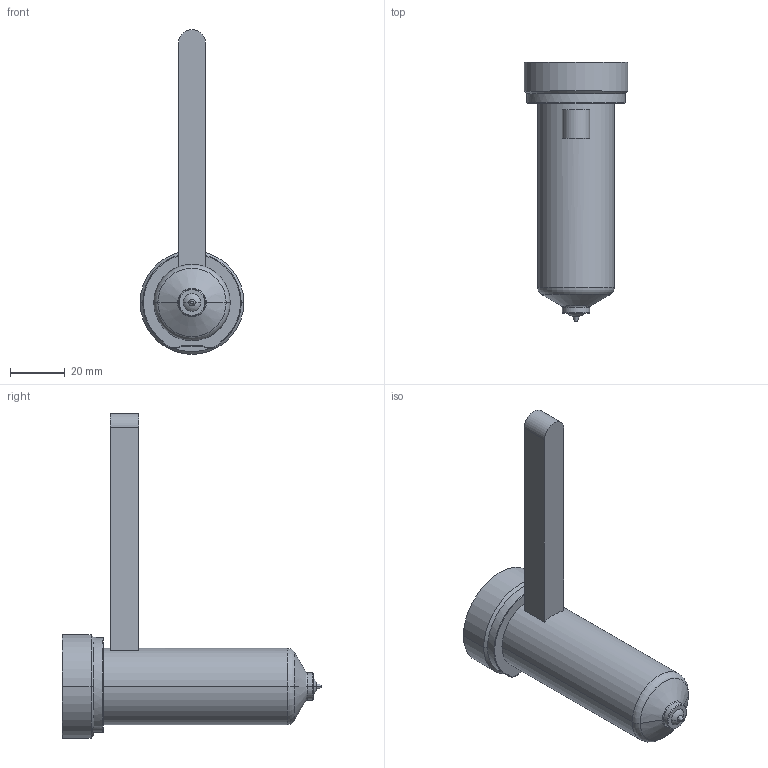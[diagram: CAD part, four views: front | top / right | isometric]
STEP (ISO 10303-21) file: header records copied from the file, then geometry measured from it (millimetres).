
FILE_DESCRIPTION((''),'2;1');
FILE_NAME('EO06_VG-BL_STD_080_COT','2024-02-19T13:00:23',('sundharh'),(''),'CREO PARAMETRIC BY PTC INC, 2023154','CREO PARAMETRIC BY PTC INC, 2023154','');
FILE_SCHEMA(('CONFIG_CONTROL_DESIGN'));
Length unit declared in the file: millimetre
Products named in the file (1): EO06_VG-BL_STD_080_COT
Bounding box: 38 x 95 x 119 mm (x, y, z)
Volume: 69828 mm3; surface area: 13668.3 mm2
Topology: 1 solids, 1 shells, 38 faces, 81 edges, 48 vertices
Faces by surface type: cylinder 11, plane 10, torus 9, cone 6, sphere 2
Entity records: 1147 total; most frequent: CARTESIAN_POINT 259, DIRECTION 199, ORIENTED_EDGE 162, AXIS2_PLACEMENT_3D 86, EDGE_CURVE 81, VERTEX_POINT 48, CIRCLE 48, EDGE_LOOP 41
